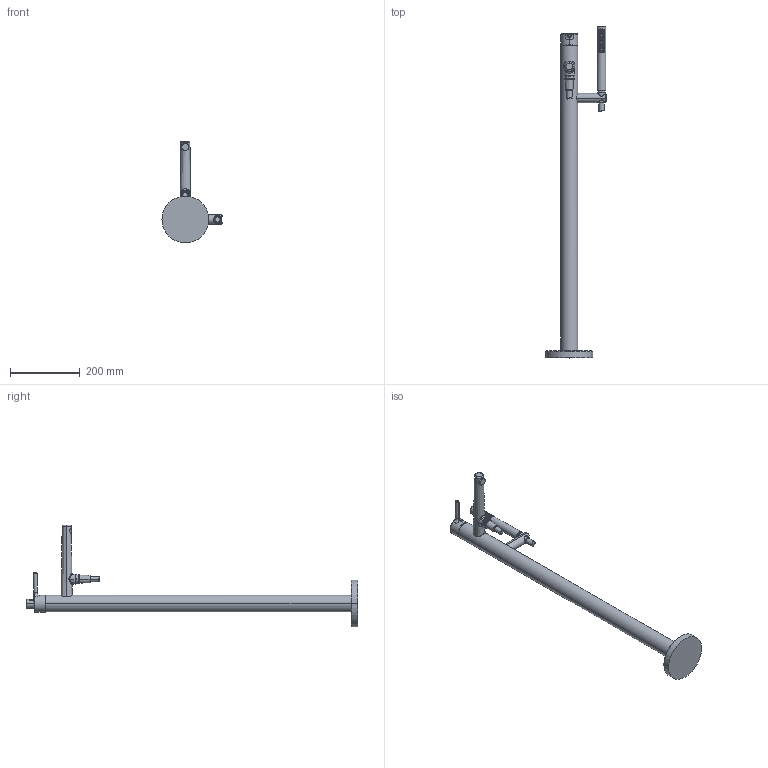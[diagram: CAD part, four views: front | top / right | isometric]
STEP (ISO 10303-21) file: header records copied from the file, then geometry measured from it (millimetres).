
FILE_DESCRIPTION (( 'STEP AP203' ), '1' );
FILE_NAME ('54832007(2023).STEP', '2024-11-27T12:27:16', ( '' ), ( '' ), 'SwSTEP 2.0', 'SolidWorks 2024', '' );
FILE_SCHEMA (( 'CONFIG_CONTROL_DESIGN' ));
Length unit declared in the file: millimetre
Products named in the file (1): 54832007(2023)
Bounding box: 173 x 954.69 x 293.1 mm (x, y, z)
Volume: 2283359 mm3; surface area: 232418.3 mm2
Topology: 1 solids, 3 shells, 270 faces, 625 edges, 436 vertices
Faces by surface type: bspline 110, cylinder 71, plane 54, cone 20, torus 14, sphere 1
Entity records: 27038 total; most frequent: CARTESIAN_POINT 21419, ORIENTED_EDGE 1246, DIRECTION 890, EDGE_CURVE 623, VERTEX_POINT 435, AXIS2_PLACEMENT_3D 378, EDGE_LOOP 352, ADVANCED_FACE 270
